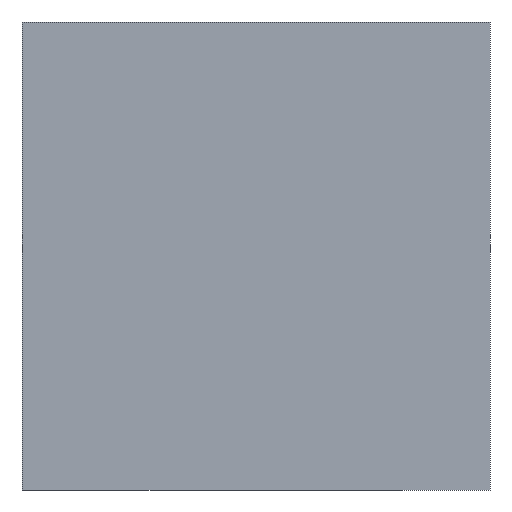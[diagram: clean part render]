
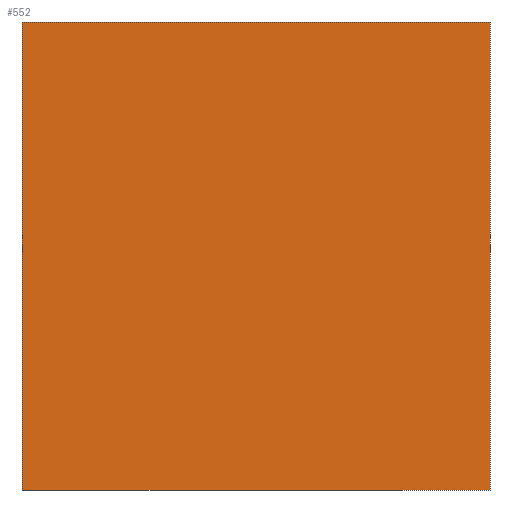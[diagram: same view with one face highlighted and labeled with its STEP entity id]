
A CAD part, left-side view. The second image highlights one B-rep face of the part: STEP entity #552.
In plain terms, the highlighted planar face has unit normal (-1, 0, 0).
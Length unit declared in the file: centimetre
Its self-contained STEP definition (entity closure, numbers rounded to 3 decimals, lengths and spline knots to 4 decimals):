
#17 = LINE ( 'NONE', #483, #580 ) ;
#73 = CARTESIAN_POINT ( 'NONE',  ( 0., 1000., 1000. ) ) ;
#82 = DIRECTION ( 'NONE',  ( 1., 0., 0. ) ) ;
#143 = AXIS2_PLACEMENT_3D ( 'NONE', #73, #82, #684 ) ;
#211 = VERTEX_POINT ( 'NONE', #603 ) ;
#234 = LINE ( 'NONE', #301, #428 ) ;
#241 = CARTESIAN_POINT ( 'NONE',  ( 0., 0., 1000. ) ) ;
#254 = VECTOR ( 'NONE', #984, 100. ) ;
#301 = CARTESIAN_POINT ( 'NONE',  ( 0., 1000., 1000. ) ) ;
#306 = CARTESIAN_POINT ( 'NONE',  ( 0., 1000., 0. ) ) ;
#313 = LINE ( 'NONE', #911, #461 ) ;
#371 = VERTEX_POINT ( 'NONE', #306 ) ;
#385 = FACE_OUTER_BOUND ( 'NONE', #633, .T. ) ;
#394 = DIRECTION ( 'NONE',  ( 0., -1., 0. ) ) ;
#428 = VECTOR ( 'NONE', #394, 100. ) ;
#442 = VERTEX_POINT ( 'NONE', #455 ) ;
#451 = PLANE ( 'NONE',  #143 ) ;
#455 = CARTESIAN_POINT ( 'NONE',  ( 0., 0., 0. ) ) ;
#461 = VECTOR ( 'NONE', #814, 100. ) ;
#477 = EDGE_CURVE ( 'NONE', #211, #720, #234, .T. ) ;
#478 = EDGE_CURVE ( 'NONE', #371, #442, #313, .T. ) ;
#483 = CARTESIAN_POINT ( 'NONE',  ( 0., 1000., 1000. ) ) ;
#552 = ADVANCED_FACE ( 'NONE', ( #385 ), #451, .F. ) ;
#580 = VECTOR ( 'NONE', #623, 100. ) ;
#594 = LINE ( 'NONE', #902, #254 ) ;
#596 = ORIENTED_EDGE ( 'NONE', *, *, #477, .F. ) ;
#603 = CARTESIAN_POINT ( 'NONE',  ( 0., 1000., 1000. ) ) ;
#623 = DIRECTION ( 'NONE',  ( 0., 0., -1. ) ) ;
#633 = EDGE_LOOP ( 'NONE', ( #846, #889, #596, #685 ) ) ;
#638 = EDGE_CURVE ( 'NONE', #211, #371, #17, .T. ) ;
#684 = DIRECTION ( 'NONE',  ( 0., 0., -1. ) ) ;
#685 = ORIENTED_EDGE ( 'NONE', *, *, #638, .T. ) ;
#720 = VERTEX_POINT ( 'NONE', #241 ) ;
#814 = DIRECTION ( 'NONE',  ( 0., -1., 0. ) ) ;
#846 = ORIENTED_EDGE ( 'NONE', *, *, #478, .T. ) ;
#889 = ORIENTED_EDGE ( 'NONE', *, *, #980, .F. ) ;
#902 = CARTESIAN_POINT ( 'NONE',  ( 0., 0., 1000. ) ) ;
#911 = CARTESIAN_POINT ( 'NONE',  ( 0., 1000., 0. ) ) ;
#980 = EDGE_CURVE ( 'NONE', #720, #442, #594, .T. ) ;
#984 = DIRECTION ( 'NONE',  ( 0., 0., -1. ) ) ;
